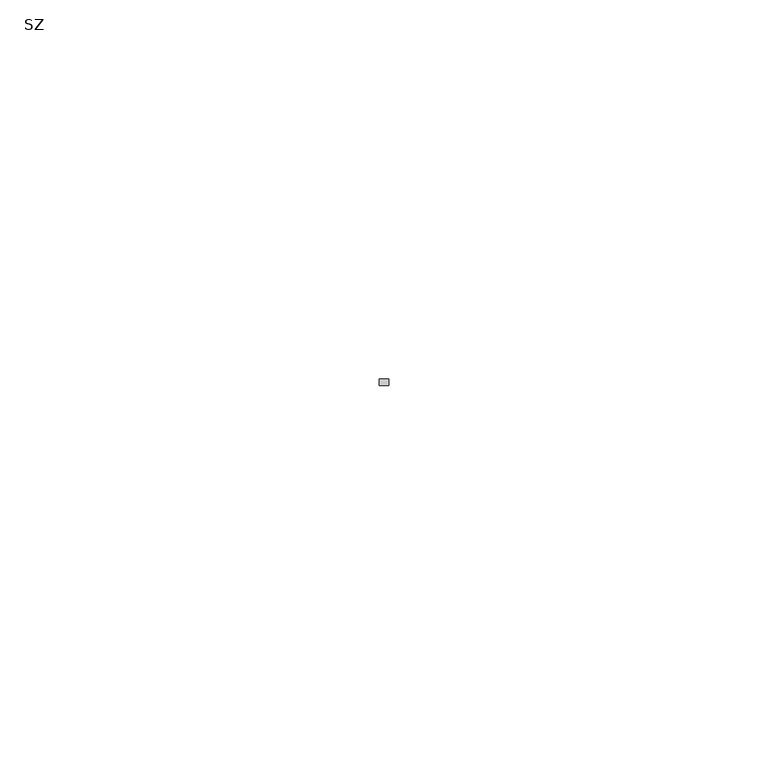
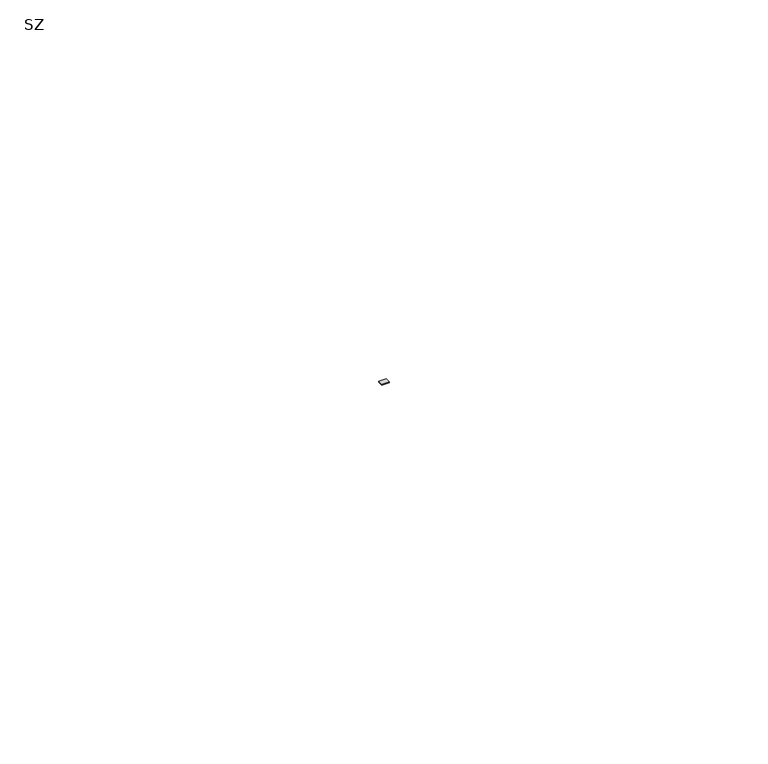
"""IFC4 building model written with IfcOpenShell, lengths in millimetres: cable carrier fitting geometry, ⚠_IEK_Лестничный_Редукция : SZ."""

from ifc_helpers import new_model, si_unit, origin, origin_with_axes, place, context, project, spatial, polyline, outline, extrude, source, transform, mapped, element, save


def sz_65b4f98e(model_context):
    return source(origin(), model_context, "Body", "SweptSolid", [
        extrude(outline(polyline([(-0.5861105, -0.8071845), (-0.5861105, 0.0), (0.6138895, 0.0), (0.6138895, -0.8071845), (-0.5861105, -0.8071845)])), origin_with_axes(), (0.0, 0.0, 1.0), 0.1817944),
    ])


if __name__ == "__main__":
    model = new_model("IFC4")
    model_context = context("Model", 3, world=origin())
    ifc_project = project(units=[si_unit("LENGTHUNIT", "METRE", prefix="MILLI")], contexts=[model_context])
    site = spatial("IfcSite", under=ifc_project)
    building = spatial("IfcBuilding", under=site)
    placement = place(None, origin())
    sz_shape = sz_65b4f98e(model_context)
    element("IfcCableCarrierFitting", 1, ObjectType="⚠_IEK_Лестничный_Редукция : SZ", at=placement, inside=building, context=model_context, shape_type="MappedRepresentation", body=[
        mapped(sz_shape, transform((0.0, 0.0, 0.0), x_axis=(1.0, 0.0, 0.0), y_axis=(0.0, 1.0, 0.0), z_axis=(0.0, 0.0, 1.0))),
    ])
    save(model, "model.ifc")
